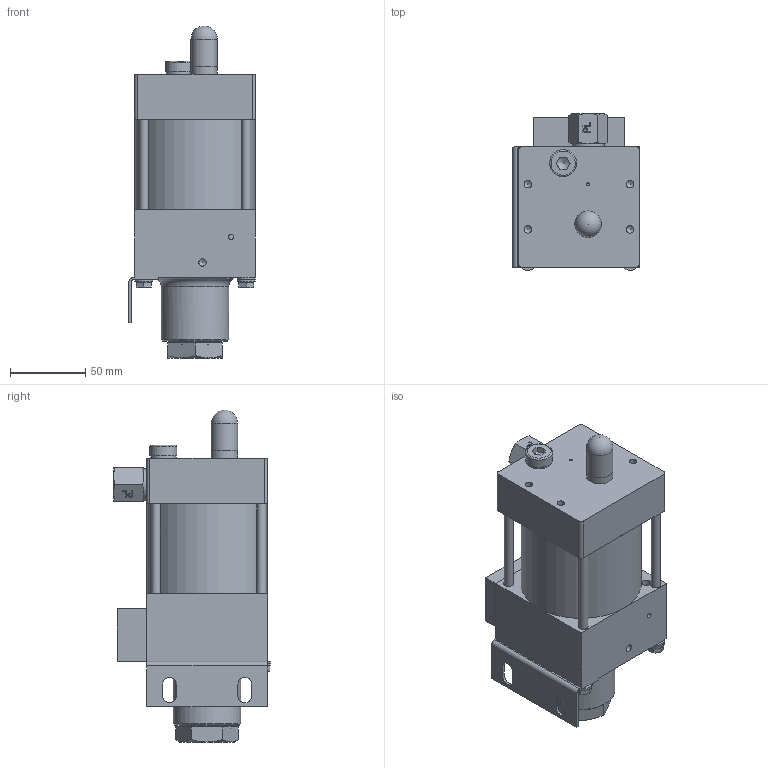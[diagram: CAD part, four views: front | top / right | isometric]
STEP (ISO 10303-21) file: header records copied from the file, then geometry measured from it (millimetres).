
FILE_DESCRIPTION(/* description */ ('MPLV 4'),/* implementation_level */ '2;1');
FILE_NAME(/* name */ 'X:\MCT Vorgänge\MCT15001243\VP10.00.75.stp',/* time_stamp */ '2015-04-23T08:16:37+02:00',/* author */ ('suschiele'),/* organization */ (''),/* preprocessor_version */ 'ST-DEVELOPER v15.6',/* originating_system */ 'Autodesk Inventor 2015',/* authorisation */ '');
FILE_SCHEMA (('AUTOMOTIVE_DESIGN { 1 0 10303 214 3 1 1 }'));
Length unit declared in the file: millimetre
Products named in the file (1): VP10.00.75NDH-00126726
Bounding box: 84 x 104 x 220.5 mm (x, y, z)
Volume: 684707.9 mm3; surface area: 126682.7 mm2
Topology: 1 solids, 10 shells, 444 faces, 1057 edges, 674 vertices
Faces by surface type: plane 229, cylinder 97, cone 77, bspline 24, torus 16, sphere 1
Full cylindrical faces by diameter (mm): 2 x1, 3.5 x2, 4.134 x1, 4.917 x10, 5 x1, 6 x5, 6.2 x1, 6.4 x2, 6.5 x4, 6.647 x2, 7.5 x1, 8 x3, 8.5 x2, 8.88 x4, 9 x2, 9.4 x1, 10.5 x1, 11.9 x1, 12 x3, 12.2 x1, 13 x3, 13.5 x2, 14.95 x3, 15.81 x1, 17 x1, 17.3 x1, 17.48 x1, 17.5 x1, 18 x1, 18.631 x1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
Entity records: 12660 total; most frequent: CARTESIAN_POINT 2862, DIRECTION 1873, ORIENTED_EDGE 1778, EDGE_CURVE 889, AXIS2_PLACEMENT_3D 734, EDGE_LOOP 629, VERTEX_POINT 618, STYLED_ITEM 445
